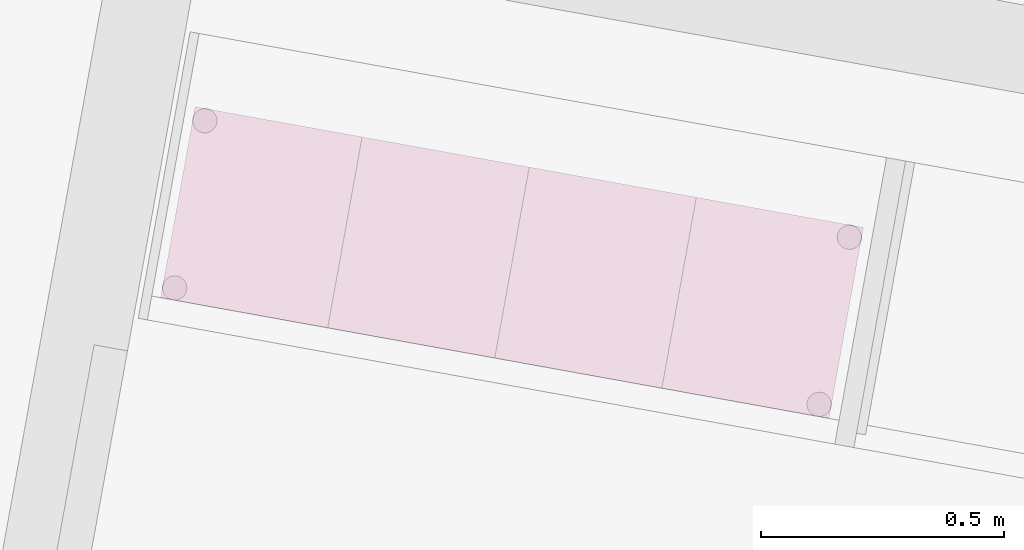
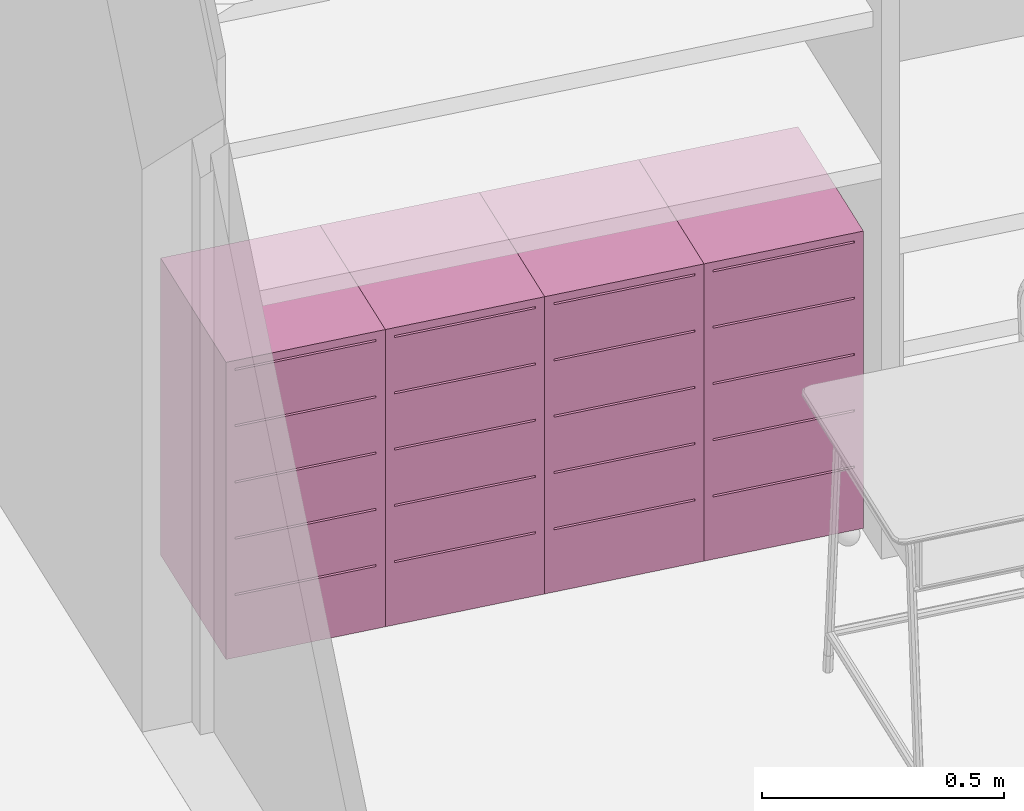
# One storey, part 15 of 79: 4 furnishings.
"""IFC2X3 building model written with IfcOpenShell, lengths in metres."""

from ifc_helpers import new_model, entity, si_unit, converted_unit, derived_unit, money_unit, direction, frame, origin_with_axes, place, context, subcontext, project, spatial, open_shell, faceted_brep, surface_model, source, transform, mapped, material, type_object, element, save


model = new_model("IFC2X3")

# Units and contexts
model_context = context("Model", 3, precision=1e-05, world=origin_with_axes(), true_north=direction((0.0, 1.0)))
body_context = subcontext(model_context, "Body", "Model", "MODEL_VIEW")
ifc_project = project(units=[si_unit("LENGTHUNIT", "METRE"), si_unit("AREAUNIT", "SQUARE_METRE"), si_unit("VOLUMEUNIT", "CUBIC_METRE"), converted_unit("PLANEANGLEUNIT", "DEGREE", entity("IfcPlaneAngleMeasure", 0.0174532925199), si_unit("PLANEANGLEUNIT", "RADIAN"), dimensions=[0, 0, 0, 0, 0, 0, 0]), money_unit("CHF"), converted_unit("TIMEUNIT", "Year", entity("IfcTimeMeasure", 31556926.0), si_unit("TIMEUNIT", "SECOND"), dimensions=[0, 0, 1, 0, 0, 0, 0]), si_unit("MASSUNIT", "GRAM", prefix="KILO"), si_unit("THERMODYNAMICTEMPERATUREUNIT", "DEGREE_CELSIUS"), si_unit("LUMINOUSINTENSITYUNIT", "LUMEN"), si_unit("ENERGYUNIT", "JOULE", prefix="MEGA"), derived_unit("THERMALCONDUCTANCEUNIT", [(si_unit("POWERUNIT", "WATT"), 1), (si_unit("LENGTHUNIT", "METRE"), -1), (si_unit("THERMODYNAMICTEMPERATUREUNIT", "KELVIN"), -1)]), derived_unit("SPECIFICHEATCAPACITYUNIT", [(si_unit("ENERGYUNIT", "JOULE"), 1), (si_unit("MASSUNIT", "GRAM", prefix="KILO"), -1), (si_unit("THERMODYNAMICTEMPERATUREUNIT", "KELVIN"), -1)]), derived_unit("MASSDENSITYUNIT", [(si_unit("MASSUNIT", "GRAM", prefix="KILO"), 1), (si_unit("VOLUMEUNIT", "CUBIC_METRE"), -1)])], contexts=[model_context])

# Site, building, storey
site_placement = place(None, frame((0.0, 0.0, 0.0), z_axis=(0.0, 0.0, 1.0), x_axis=(-0.177771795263, -0.984071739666, 0.0)))
site = spatial("IfcSite", under=ifc_project, at=site_placement, Name="Site", CompositionType="ELEMENT")
building_placement = place(site_placement, origin_with_axes())
building = spatial("IfcBuilding", under=site, at=building_placement, Name="Bâtiment", CompositionType="ELEMENT")
storey_placement = place(building_placement, origin_with_axes())
storey = spatial("IfcBuildingStorey", under=building, at=storey_placement, Name="RDC", CompositionType="ELEMENT", Elevation=0.0)

# Furnishings
ifc_material = material(Name="Matériau de construction IFC")
furnishing_element_type = type_object("IfcFurnishingElementType", Name="Caisson à roulettes 3 21")
shared_shape = source(origin_with_axes(), body_context, "Body", "SurfaceModel", [
    surface_model("IfcShellBasedSurfaceModel", [(0.33, 0.02, 0.0), (0.02, 0.02, 0.0), (0.02, 0.4, 0.0), (0.33, 0.4, 0.0)], [open_shell([[[0, 1, 2, 3]]])]),
    faceted_brep([(0.0, 0.4, 0.0), (0.35, 0.4, 0.0), (0.35, 0.0, 0.0), (0.0, 0.0, 0.0), (0.0, 0.4, 0.75), (0.35, 0.4, 0.75), (0.02, 0.4, 0.02), (0.33, 0.4, 0.02), (0.33, 0.4, 0.73), (0.02, 0.4, 0.73), (0.35, 0.0, 0.75), (0.0, 0.0, 0.75), (0.02, 0.0, 0.02), (0.02, 0.0, 0.73), (0.33, 0.0, 0.73), (0.33, 0.0, 0.02)], [[[0, 1, 2, 3]], [[0, 4, 5, 1], [6, 7, 8, 9]], [[1, 5, 10, 2]], [[3, 2, 10, 11], [12, 13, 14, 15]], [[4, 0, 3, 11]], [[5, 4, 11, 10]], [[7, 6, 12, 15]], [[8, 7, 15, 14]], [[9, 8, 14, 13]], [[6, 9, 13, 12]]]),
    faceted_brep([(0.33, 0.4, 0.02), (0.02, 0.4, 0.02), (0.02, 0.4, 0.73), (0.33, 0.4, 0.73), (0.33, 0.38, 0.02), (0.02, 0.38, 0.02), (0.02, 0.38, 0.73), (0.33, 0.38, 0.73)], [[[0, 1, 2, 3]], [[1, 0, 4, 5]], [[2, 1, 5, 6]], [[3, 2, 6, 7]], [[0, 3, 7, 4]], [[5, 4, 7, 6]]]),
    faceted_brep([(0.33, 0.0, 0.02), (0.02, 0.0, 0.02), (0.02, 0.38, 0.02), (0.33, 0.38, 0.02), (0.33, 0.0, 0.157), (0.02, 0.0, 0.157), (0.02, 0.38, 0.157), (0.33, 0.38, 0.157)], [[[0, 1, 2, 3]], [[1, 0, 4, 5]], [[2, 1, 5, 6]], [[3, 2, 6, 7]], [[0, 3, 7, 4]], [[5, 4, 7, 6]]]),
    faceted_brep([(0.33, 0.0, 0.162), (0.02, 0.0, 0.162), (0.02, 0.38, 0.162), (0.33, 0.38, 0.162), (0.33, 0.0, 0.299), (0.02, 0.0, 0.299), (0.02, 0.38, 0.299), (0.33, 0.38, 0.299)], [[[0, 1, 2, 3]], [[1, 0, 4, 5]], [[2, 1, 5, 6]], [[3, 2, 6, 7]], [[0, 3, 7, 4]], [[5, 4, 7, 6]]]),
    faceted_brep([(0.33, 0.0, 0.304), (0.02, 0.0, 0.304), (0.02, 0.38, 0.304), (0.33, 0.38, 0.304), (0.33, 0.0, 0.441), (0.02, 0.0, 0.441), (0.02, 0.38, 0.441), (0.33, 0.38, 0.441)], [[[0, 1, 2, 3]], [[1, 0, 4, 5]], [[2, 1, 5, 6]], [[3, 2, 6, 7]], [[0, 3, 7, 4]], [[5, 4, 7, 6]]]),
    faceted_brep([(0.33, 0.0, 0.446), (0.02, 0.0, 0.446), (0.02, 0.38, 0.446), (0.33, 0.38, 0.446), (0.33, 0.0, 0.583), (0.02, 0.0, 0.583), (0.02, 0.38, 0.583), (0.33, 0.38, 0.583)], [[[0, 1, 2, 3]], [[1, 0, 4, 5]], [[2, 1, 5, 6]], [[3, 2, 6, 7]], [[0, 3, 7, 4]], [[5, 4, 7, 6]]]),
    faceted_brep([(0.33, 0.0, 0.588), (0.02, 0.0, 0.588), (0.02, 0.38, 0.588), (0.33, 0.38, 0.588), (0.33, 0.0, 0.725), (0.02, 0.0, 0.725), (0.02, 0.38, 0.725), (0.33, 0.38, 0.725)], [[[0, 1, 2, 3]], [[1, 0, 4, 5]], [[2, 1, 5, 6]], [[3, 2, 6, 7]], [[0, 3, 7, 4]], [[5, 4, 7, 6]]]),
])
for number, where, z_axis, x_axis in (
    (1, (147.099860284, -156.399529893, 0.05), (0.0, 0.0, 1.0), (0.0, 1.0, 0.0)),
    (2, (147.099860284, -156.049529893, 0.05), (0.0, 0.0, 1.0), (0.0, 1.0, 0.0)),
    (3, (147.099860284, -155.699529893, 0.05), (0.0, 0.0, 1.0), (0.0, 1.0, 0.0)),
    (4, (147.099860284, -155.349529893, 0.05), (0.0, 0.0, 1.0), (0.0, 1.0, 0.0)),
):
    element("IfcFurnishingElement", number, at=place(storey_placement, frame(where, z_axis=z_axis, x_axis=x_axis)), inside=storey, type_object=furnishing_element_type, material=ifc_material, Name="tiroirs-classe", ObjectType="SYSTEM_FURNITURE", context=body_context, shape_type="MappedRepresentation", body=[
        mapped(shared_shape, transform((0.0, 0.0, 0.0))),
    ])

save(model, "model.ifc")
